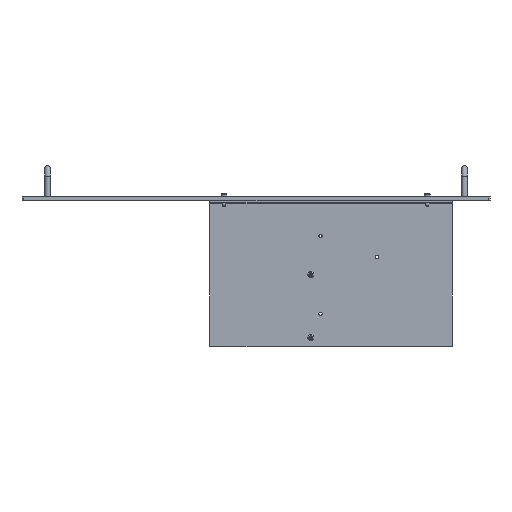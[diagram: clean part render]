
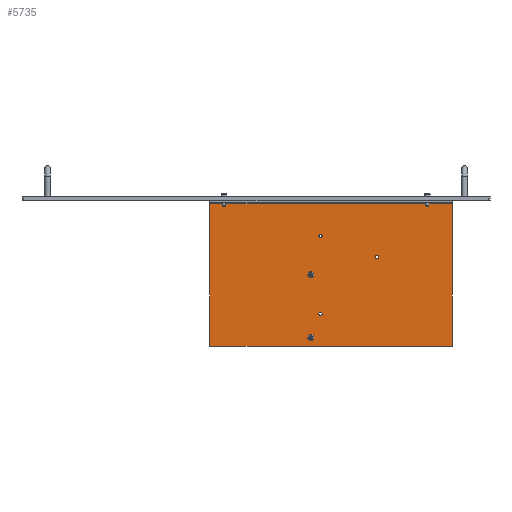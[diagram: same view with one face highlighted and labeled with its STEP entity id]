
A CAD part, front view. The second image highlights one B-rep face of the part: STEP entity #5735.
In plain terms, the highlighted planar face has unit normal (0, -1, 0).
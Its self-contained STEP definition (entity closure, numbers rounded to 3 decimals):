
#647=FACE_BOUND('',#1332,.T.);
#648=FACE_BOUND('',#1333,.T.);
#649=FACE_BOUND('',#1334,.T.);
#650=FACE_BOUND('',#1335,.T.);
#651=FACE_BOUND('',#1336,.T.);
#697=CIRCLE('',#6099,3.);
#698=CIRCLE('',#6100,3.);
#699=CIRCLE('',#6101,1.75);
#700=CIRCLE('',#6102,1.75);
#701=CIRCLE('',#6103,1.75);
#702=CIRCLE('',#6104,1.75);
#703=CIRCLE('',#6105,1.75);
#704=CIRCLE('',#6106,1.75);
#990=FACE_OUTER_BOUND('',#1331,.T.);
#1331=EDGE_LOOP('',(#3916,#3917,#3918,#3919));
#1332=EDGE_LOOP('',(#3920));
#1333=EDGE_LOOP('',(#3921));
#1334=EDGE_LOOP('',(#3922,#3923));
#1335=EDGE_LOOP('',(#3924,#3925));
#1336=EDGE_LOOP('',(#3926,#3927));
#1741=LINE('',#8424,#2130);
#1742=LINE('',#8426,#2131);
#1743=LINE('',#8428,#2132);
#1744=LINE('',#8429,#2133);
#2130=VECTOR('',#6784,10.);
#2131=VECTOR('',#6785,10.);
#2132=VECTOR('',#6786,10.);
#2133=VECTOR('',#6787,10.);
#2509=VERTEX_POINT('',#8422);
#2510=VERTEX_POINT('',#8423);
#2511=VERTEX_POINT('',#8425);
#2512=VERTEX_POINT('',#8427);
#2513=VERTEX_POINT('',#8430);
#2514=VERTEX_POINT('',#8432);
#2515=VERTEX_POINT('',#8434);
#2516=VERTEX_POINT('',#8435);
#2517=VERTEX_POINT('',#8438);
#2518=VERTEX_POINT('',#8439);
#2519=VERTEX_POINT('',#8442);
#2520=VERTEX_POINT('',#8443);
#3051=EDGE_CURVE('',#2509,#2510,#1741,.T.);
#3052=EDGE_CURVE('',#2511,#2510,#1742,.T.);
#3053=EDGE_CURVE('',#2512,#2511,#1743,.T.);
#3054=EDGE_CURVE('',#2509,#2512,#1744,.T.);
#3055=EDGE_CURVE('',#2513,#2513,#697,.T.);
#3056=EDGE_CURVE('',#2514,#2514,#698,.T.);
#3057=EDGE_CURVE('',#2515,#2516,#699,.T.);
#3058=EDGE_CURVE('',#2516,#2515,#700,.T.);
#3059=EDGE_CURVE('',#2517,#2518,#701,.T.);
#3060=EDGE_CURVE('',#2518,#2517,#702,.T.);
#3061=EDGE_CURVE('',#2519,#2520,#703,.T.);
#3062=EDGE_CURVE('',#2520,#2519,#704,.T.);
#3916=ORIENTED_EDGE('',*,*,#3051,.T.);
#3917=ORIENTED_EDGE('',*,*,#3052,.F.);
#3918=ORIENTED_EDGE('',*,*,#3053,.F.);
#3919=ORIENTED_EDGE('',*,*,#3054,.F.);
#3920=ORIENTED_EDGE('',*,*,#3055,.F.);
#3921=ORIENTED_EDGE('',*,*,#3056,.F.);
#3922=ORIENTED_EDGE('',*,*,#3057,.T.);
#3923=ORIENTED_EDGE('',*,*,#3058,.T.);
#3924=ORIENTED_EDGE('',*,*,#3059,.T.);
#3925=ORIENTED_EDGE('',*,*,#3060,.T.);
#3926=ORIENTED_EDGE('',*,*,#3061,.T.);
#3927=ORIENTED_EDGE('',*,*,#3062,.T.);
#5531=PLANE('',#6098);
#5735=ADVANCED_FACE('',(#990,#647,#648,#649,#650,#651),#5531,.T.);
#6098=AXIS2_PLACEMENT_3D('',#8421,#6782,#6783);
#6099=AXIS2_PLACEMENT_3D('',#8431,#6788,#6789);
#6100=AXIS2_PLACEMENT_3D('',#8433,#6790,#6791);
#6101=AXIS2_PLACEMENT_3D('',#8436,#6792,#6793);
#6102=AXIS2_PLACEMENT_3D('',#8437,#6794,#6795);
#6103=AXIS2_PLACEMENT_3D('',#8440,#6796,#6797);
#6104=AXIS2_PLACEMENT_3D('',#8441,#6798,#6799);
#6105=AXIS2_PLACEMENT_3D('',#8444,#6800,#6801);
#6106=AXIS2_PLACEMENT_3D('',#8445,#6802,#6803);
#6782=DIRECTION('center_axis',(0.,-1.,0.));
#6783=DIRECTION('ref_axis',(-1.,0.,0.));
#6784=DIRECTION('',(-1.,0.,0.));
#6785=DIRECTION('',(0.,0.,1.));
#6786=DIRECTION('',(-1.,0.,0.));
#6787=DIRECTION('',(0.,0.,-1.));
#6788=DIRECTION('center_axis',(0.,-1.,0.));
#6789=DIRECTION('ref_axis',(-1.,0.,0.));
#6790=DIRECTION('center_axis',(0.,-1.,0.));
#6791=DIRECTION('ref_axis',(-1.,0.,0.));
#6792=DIRECTION('center_axis',(0.,1.,0.));
#6793=DIRECTION('ref_axis',(-1.,0.,0.));
#6794=DIRECTION('center_axis',(0.,1.,0.));
#6795=DIRECTION('ref_axis',(-1.,0.,0.));
#6796=DIRECTION('center_axis',(0.,1.,0.));
#6797=DIRECTION('ref_axis',(-1.,0.,0.));
#6798=DIRECTION('center_axis',(0.,1.,0.));
#6799=DIRECTION('ref_axis',(-1.,0.,0.));
#6800=DIRECTION('center_axis',(0.,1.,0.));
#6801=DIRECTION('ref_axis',(-1.,0.,0.));
#6802=DIRECTION('center_axis',(0.,1.,0.));
#6803=DIRECTION('ref_axis',(-1.,0.,0.));
#8421=CARTESIAN_POINT('Origin',(77.5,-28.55,-75.));
#8422=CARTESIAN_POINT('',(202.5,-28.55,-3.));
#8423=CARTESIAN_POINT('',(-47.5,-28.55,-3.));
#8424=CARTESIAN_POINT('',(15.,-28.55,-3.));
#8425=CARTESIAN_POINT('',(-47.5,-28.55,-150.));
#8426=CARTESIAN_POINT('',(-47.5,-28.55,-150.));
#8427=CARTESIAN_POINT('',(202.5,-28.55,-150.));
#8428=CARTESIAN_POINT('',(202.5,-28.55,-150.));
#8429=CARTESIAN_POINT('',(202.5,-28.55,0.));
#8430=CARTESIAN_POINT('',(59.5,-28.55,-141.25));
#8431=CARTESIAN_POINT('Origin',(56.5,-28.55,-141.25));
#8432=CARTESIAN_POINT('',(59.5,-28.55,-76.25));
#8433=CARTESIAN_POINT('Origin',(56.5,-28.55,-76.25));
#8434=CARTESIAN_POINT('',(64.75,-28.55,-36.5));
#8435=CARTESIAN_POINT('',(68.25,-28.55,-36.5));
#8436=CARTESIAN_POINT('Origin',(66.5,-28.55,-36.5));
#8437=CARTESIAN_POINT('Origin',(66.5,-28.55,-36.5));
#8438=CARTESIAN_POINT('',(122.75,-28.55,-58.));
#8439=CARTESIAN_POINT('',(126.25,-28.55,-58.));
#8440=CARTESIAN_POINT('Origin',(124.5,-28.55,-58.));
#8441=CARTESIAN_POINT('Origin',(124.5,-28.55,-58.));
#8442=CARTESIAN_POINT('',(64.75,-28.55,-116.5));
#8443=CARTESIAN_POINT('',(68.25,-28.55,-116.5));
#8444=CARTESIAN_POINT('Origin',(66.5,-28.55,-116.5));
#8445=CARTESIAN_POINT('Origin',(66.5,-28.55,-116.5));
